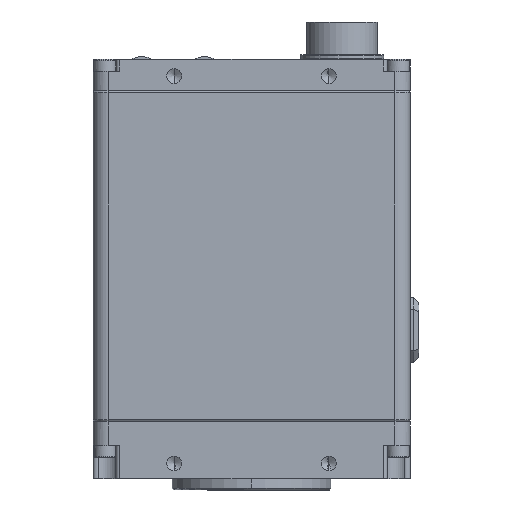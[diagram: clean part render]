
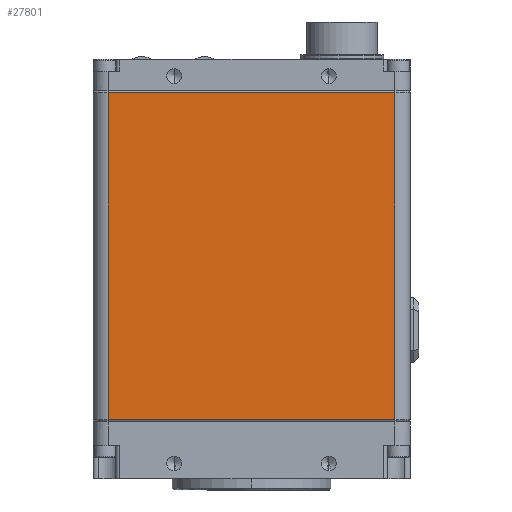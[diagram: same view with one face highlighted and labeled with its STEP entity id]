
A CAD part, front view. The second image highlights one B-rep face of the part: STEP entity #27801.
In plain terms, the highlighted planar face has unit normal (0, -1, 0).
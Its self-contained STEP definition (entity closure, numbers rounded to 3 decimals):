
#2638 = CARTESIAN_POINT ( 'NONE',  ( -24.13, -16.51, -44.701 ) ) ;
#3894 = CARTESIAN_POINT ( 'NONE',  ( -26.67, -16.51, -44.955 ) ) ;
#4500 = CARTESIAN_POINT ( 'NONE',  ( 24.13, -16.51, 10.316 ) ) ;
#5097 = LINE ( 'NONE', #8418, #36427 ) ;
#6818 = EDGE_CURVE ( 'NONE', #26301, #44380, #5097, .T. ) ;
#7939 = PLANE ( 'NONE',  #29346 ) ;
#8418 = CARTESIAN_POINT ( 'NONE',  ( -24.13, -16.51, -44.955 ) ) ;
#11109 = EDGE_CURVE ( 'NONE', #44380, #22065, #33759, .T. ) ;
#11183 = DIRECTION ( 'NONE',  ( 1., 0., 0. ) ) ;
#11462 = VECTOR ( 'NONE', #44358, 1000. ) ;
#13339 = CARTESIAN_POINT ( 'NONE',  ( 24.13, -16.51, -44.955 ) ) ;
#13514 = ORIENTED_EDGE ( 'NONE', *, *, #6818, .T. ) ;
#19159 = CARTESIAN_POINT ( 'NONE',  ( 24.13, -16.51, -44.701 ) ) ;
#19926 = VECTOR ( 'NONE', #11183, 1000. ) ;
#22065 = VERTEX_POINT ( 'NONE', #38367 ) ;
#24120 = FACE_OUTER_BOUND ( 'NONE', #29659, .T. ) ;
#24573 = CARTESIAN_POINT ( 'NONE',  ( -26.67, -16.51, 10.316 ) ) ;
#24902 = DIRECTION ( 'NONE',  ( -1., 0., 0. ) ) ;
#26301 = VERTEX_POINT ( 'NONE', #45408 ) ;
#26787 = EDGE_CURVE ( 'NONE', #22065, #45708, #34066, .T. ) ;
#26795 = DIRECTION ( 'NONE',  ( 0., 1., 0. ) ) ;
#27158 = ORIENTED_EDGE ( 'NONE', *, *, #27484, .T. ) ;
#27484 = EDGE_CURVE ( 'NONE', #45708, #26301, #38613, .T. ) ;
#27801 = ADVANCED_FACE ( 'NONE', ( #24120 ), #7939, .F. ) ;
#29346 = AXIS2_PLACEMENT_3D ( 'NONE', #3894, #26795, #44952 ) ;
#29659 = EDGE_LOOP ( 'NONE', ( #13514, #44016, #31614, #27158 ) ) ;
#31614 = ORIENTED_EDGE ( 'NONE', *, *, #26787, .T. ) ;
#33759 = LINE ( 'NONE', #19159, #19926 ) ;
#34066 = LINE ( 'NONE', #13339, #11462 ) ;
#34354 = DIRECTION ( 'NONE',  ( 0., 0., -1. ) ) ;
#36427 = VECTOR ( 'NONE', #34354, 1000. ) ;
#38367 = CARTESIAN_POINT ( 'NONE',  ( 24.13, -16.51, -44.701 ) ) ;
#38613 = LINE ( 'NONE', #24573, #41508 ) ;
#41508 = VECTOR ( 'NONE', #24902, 1000. ) ;
#44016 = ORIENTED_EDGE ( 'NONE', *, *, #11109, .T. ) ;
#44358 = DIRECTION ( 'NONE',  ( 0., 0., 1. ) ) ;
#44380 = VERTEX_POINT ( 'NONE', #2638 ) ;
#44952 = DIRECTION ( 'NONE',  ( 1., 0., 0. ) ) ;
#45408 = CARTESIAN_POINT ( 'NONE',  ( -24.13, -16.51, 10.316 ) ) ;
#45708 = VERTEX_POINT ( 'NONE', #4500 ) ;
